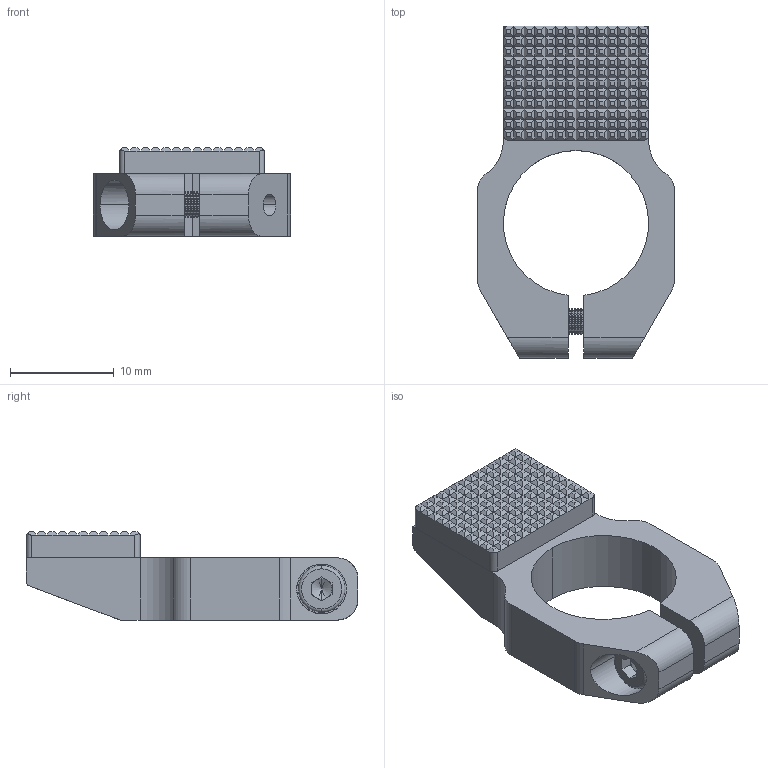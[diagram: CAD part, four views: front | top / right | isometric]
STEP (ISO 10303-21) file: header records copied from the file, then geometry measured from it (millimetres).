
FILE_DESCRIPTION (( 'STEP AP214' ), '1' );
FILE_NAME ('GP3-14.STEP', '2019-11-13T03:20:48', ( '微软用户' ), ( '微软中国' ), 'SwSTEP 2.0', 'SolidWorks 2016', '' );
FILE_SCHEMA (( 'AUTOMOTIVE_DESIGN' ));
Length unit declared in the file: millimetre
Products named in the file (1): GP3-14
Bounding box: 19 x 32 x 8.5 mm (x, y, z)
Volume: 1962.5 mm3; surface area: 2386.3 mm2
Topology: 3 solids, 3 shells, 1122 faces, 2425 edges, 1319 vertices
Faces by surface type: plane 882, cone 112, cylinder 110, torus 18
Entity records: 41523 total; most frequent: CARTESIAN_POINT 5159, DIRECTION 4949, ORIENTED_EDGE 4846, EDGE_CURVE 2423, LINE 2011, VECTOR 2011, AXIS2_PLACEMENT_3D 1469, VERTEX_POINT 1319
